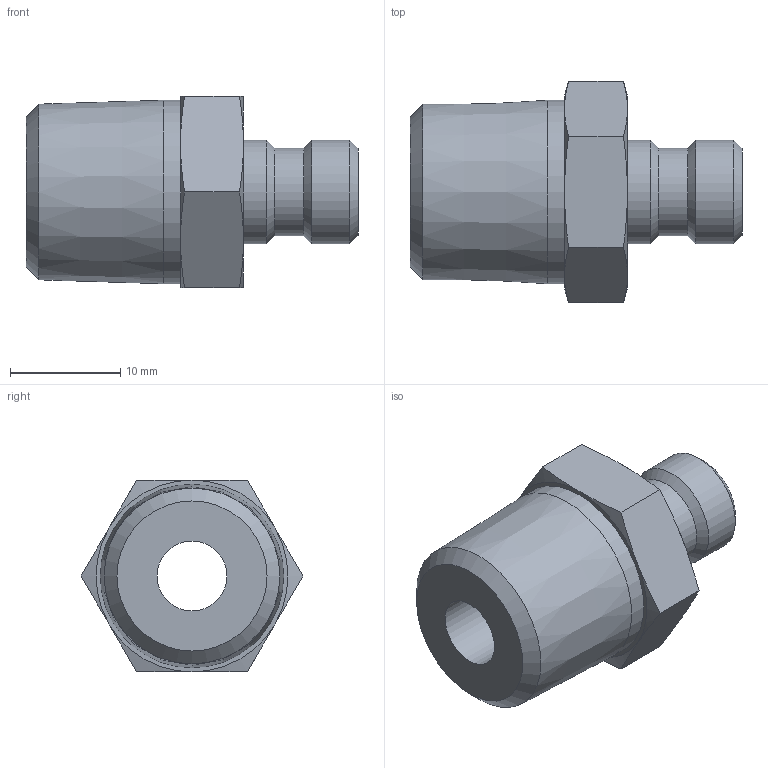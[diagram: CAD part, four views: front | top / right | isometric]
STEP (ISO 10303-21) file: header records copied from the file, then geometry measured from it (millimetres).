
FILE_DESCRIPTION(/* description */ ('STEP AP214'),/* implementation_level */ '2;1');
FILE_NAME(/* name */ 'JP-253',/* time_stamp */ '2024-12-19T08:35:00+01:00',/* author */ ('License CC BY-ND 4.0'),/* organization */ ('CADENAS'),/* preprocessor_version */ 'ST-DEVELOPER v19.3',/* originating_system */ 'PARTsolutions',/* authorisation */ ' ');
FILE_SCHEMA (('AUTOMOTIVE_DESIGN {1 0 10303 214 3 1 1}'));
Length unit declared in the file: inch
Products named in the file (1): JP-253
Bounding box: 30.18 x 20.15 x 17.45 mm (x, y, z)
Volume: 4108.4 mm3; surface area: 2361.2 mm2
Topology: 1 solids, 1 shells, 32 faces, 65 edges, 37 vertices
Faces by surface type: cone 17, plane 10, cylinder 5
Full cylindrical faces by diameter (mm): 6.35 x1, 7.937 x1, 9.449 x2, 16.675 x1
Entity records: 832 total; most frequent: CARTESIAN_POINT 197, DIRECTION 122, ORIENTED_EDGE 110, AXIS2_PLACEMENT_3D 58, EDGE_CURVE 55, EDGE_LOOP 46, FACE_BOUND 46, VERTEX_POINT 37
